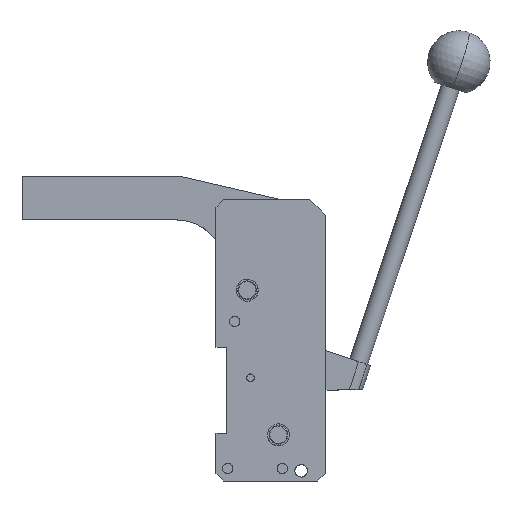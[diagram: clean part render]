
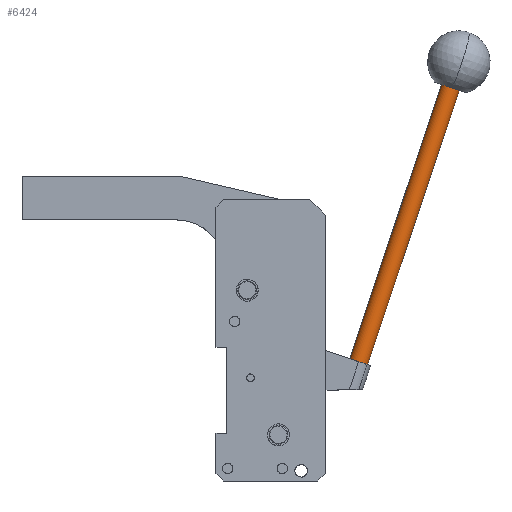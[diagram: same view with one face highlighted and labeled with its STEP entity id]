
A CAD part, top view. The second image highlights one B-rep face of the part: STEP entity #6424.
In plain terms, the highlighted cylindrical face has radius 6 mm (diameter 12 mm), a partial arc.
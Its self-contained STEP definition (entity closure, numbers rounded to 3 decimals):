
#6352=AXIS2_PLACEMENT_3D('Circle Axis2P3D',#6350,#6351,$) ;
#6397=AXIS2_PLACEMENT_3D('Cylinder Axis2P3D',#6394,#6395,#6396) ;
#6415=AXIS2_PLACEMENT_3D('Circle Axis2P3D',#6413,#6414,$) ;
#6331=CARTESIAN_POINT('Vertex',(127.781,208.406,19.285)) ;
#6347=CARTESIAN_POINT('Vertex',(116.876,212.055,22.715)) ;
#6350=CARTESIAN_POINT('Axis2P3D Location',(122.328,210.23,21.)) ;
#6394=CARTESIAN_POINT('Axis2P3D Location',(122.646,211.179,21.)) ;
#6399=CARTESIAN_POINT('Line Origine',(128.098,209.354,19.285)) ;
#6403=CARTESIAN_POINT('Vertex',(64.637,19.69,19.285)) ;
#6406=CARTESIAN_POINT('Line Origine',(117.193,213.003,22.715)) ;
#6410=CARTESIAN_POINT('Vertex',(53.732,23.338,22.715)) ;
#6413=CARTESIAN_POINT('Axis2P3D Location',(59.185,21.514,21.)) ;
#6351=DIRECTION('Axis2P3D Direction',(-0.317,-0.948,0.)) ;
#6395=DIRECTION('Axis2P3D Direction',(-0.317,-0.948,0.)) ;
#6396=DIRECTION('Axis2P3D XDirection',(0.909,-0.304,-0.286)) ;
#6400=DIRECTION('Vector Direction',(-0.317,-0.948,0.)) ;
#6407=DIRECTION('Vector Direction',(-0.317,-0.948,0.)) ;
#6414=DIRECTION('Axis2P3D Direction',(-0.317,-0.948,0.)) ;
#6401=VECTOR('Line Direction',#6400,1.) ;
#6408=VECTOR('Line Direction',#6407,1.) ;
#6419=ORIENTED_EDGE('',*,*,#6405,.T.) ;
#6420=ORIENTED_EDGE('',*,*,#6354,.F.) ;
#6421=ORIENTED_EDGE('',*,*,#6412,.T.) ;
#6422=ORIENTED_EDGE('',*,*,#6417,.T.) ;
#6424=ADVANCED_FACE('207656 Stange HKU  63.1\\',(#6423),#6398,.T.) ;
#6353=CIRCLE('generated circle',#6352,6.) ;
#6416=CIRCLE('generated circle',#6415,6.) ;
#6398=CYLINDRICAL_SURFACE('generated cylinder',#6397,6.) ;
#6354=EDGE_CURVE('',#6348,#6332,#6353,.F.) ;
#6405=EDGE_CURVE('',#6404,#6332,#6402,.F.) ;
#6412=EDGE_CURVE('',#6348,#6411,#6409,.T.) ;
#6417=EDGE_CURVE('',#6411,#6404,#6416,.F.) ;
#6418=EDGE_LOOP('',(#6419,#6420,#6421,#6422)) ;
#6423=FACE_OUTER_BOUND('',#6418,.T.) ;
#6402=LINE('Line',#6399,#6401) ;
#6409=LINE('Line',#6406,#6408) ;
#6332=VERTEX_POINT('',#6331) ;
#6348=VERTEX_POINT('',#6347) ;
#6404=VERTEX_POINT('',#6403) ;
#6411=VERTEX_POINT('',#6410) ;
